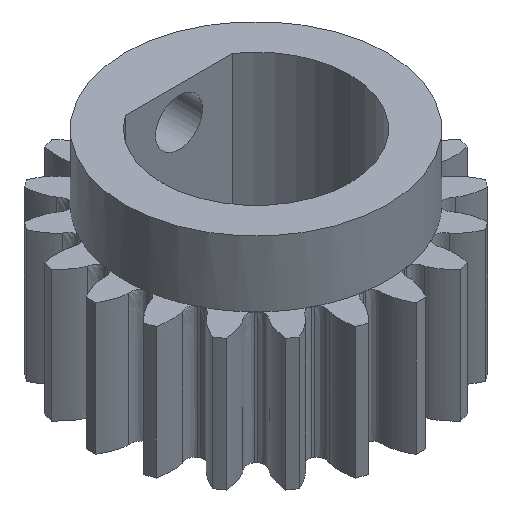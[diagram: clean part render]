
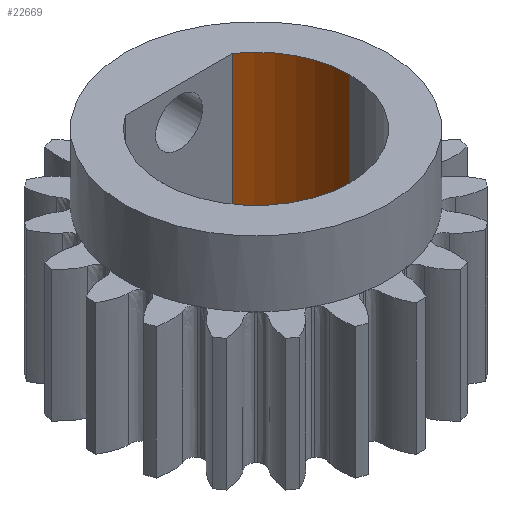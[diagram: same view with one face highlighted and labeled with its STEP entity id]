
A CAD part, isometric view. The second image highlights one B-rep face of the part: STEP entity #22669.
In plain terms, the highlighted cylindrical face has radius 4.999 mm (diameter 9.998 mm), a partial arc.
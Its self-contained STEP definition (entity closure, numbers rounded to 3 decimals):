
#82 = PLANE('',#83);
#83 = AXIS2_PLACEMENT_3D('',#84,#85,#86);
#84 = CARTESIAN_POINT('',(0.,0.,0.));
#85 = DIRECTION('',(0.,0.,1.));
#86 = DIRECTION('',(1.,0.,-0.));
#6521 = VERTEX_POINT('',#6522);
#6522 = CARTESIAN_POINT('',(2.863,4.1,0.));
#6535 = PLANE('',#6536);
#6536 = AXIS2_PLACEMENT_3D('',#6537,#6538,#6539);
#6537 = CARTESIAN_POINT('',(-2.863,4.1,-1.));
#6538 = DIRECTION('',(-0.,1.,0.));
#6539 = DIRECTION('',(1.,0.,-0.));
#6546 = EDGE_CURVE('',#6521,#6547,#6549,.T.);
#6547 = VERTEX_POINT('',#6548);
#6548 = CARTESIAN_POINT('',(5.,0.001,0.));
#6549 = SURFACE_CURVE('',#6550,(#6555,#6566),.PCURVE_S1.);
#6550 = CIRCLE('',#6551,4.999);
#6551 = AXIS2_PLACEMENT_3D('',#6552,#6553,#6554);
#6552 = CARTESIAN_POINT('',(0.001,0.001,0.));
#6553 = DIRECTION('',(0.,0.,-1.));
#6554 = DIRECTION('',(1.,0.,0.));
#6555 = PCURVE('',#82,#6556);
#6556 = DEFINITIONAL_REPRESENTATION('',(#6557),#6565);
#6557 = ( BOUNDED_CURVE() B_SPLINE_CURVE(2,(#6558,#6559,#6560,#6561,
#6562,#6563,#6564),.UNSPECIFIED.,.T.,.F.) B_SPLINE_CURVE_WITH_KNOTS((1,2
    ,2,2,2,1),(-2.094,0.,2.094,4.189,
6.283,8.378),.UNSPECIFIED.) CURVE() 
GEOMETRIC_REPRESENTATION_ITEM() RATIONAL_B_SPLINE_CURVE((1.,0.5,1.,0.5,
1.,0.5,1.)) REPRESENTATION_ITEM('') );
#6558 = CARTESIAN_POINT('',(5.,0.001));
#6559 = CARTESIAN_POINT('',(5.,-8.658));
#6560 = CARTESIAN_POINT('',(-2.499,-4.328));
#6561 = CARTESIAN_POINT('',(-9.997,0.001));
#6562 = CARTESIAN_POINT('',(-2.499,4.33));
#6563 = CARTESIAN_POINT('',(5.,8.66));
#6564 = CARTESIAN_POINT('',(5.,0.001));
#6565 = ( GEOMETRIC_REPRESENTATION_CONTEXT(2) 
PARAMETRIC_REPRESENTATION_CONTEXT() REPRESENTATION_CONTEXT('2D SPACE',''
  ) );
#6566 = PCURVE('',#6567,#6572);
#6567 = CYLINDRICAL_SURFACE('',#6568,4.999);
#6568 = AXIS2_PLACEMENT_3D('',#6569,#6570,#6571);
#6569 = CARTESIAN_POINT('',(0.001,0.001,-1.));
#6570 = DIRECTION('',(-0.,-0.,-1.));
#6571 = DIRECTION('',(1.,0.,0.));
#6572 = DEFINITIONAL_REPRESENTATION('',(#6573),#6577);
#6573 = LINE('',#6574,#6575);
#6574 = CARTESIAN_POINT('',(-6.283,-1.));
#6575 = VECTOR('',#6576,1.);
#6576 = DIRECTION('',(1.,-0.));
#6577 = ( GEOMETRIC_REPRESENTATION_CONTEXT(2) 
PARAMETRIC_REPRESENTATION_CONTEXT() REPRESENTATION_CONTEXT('2D SPACE',''
  ) );
#6594 = PLANE('',#6595);
#6595 = AXIS2_PLACEMENT_3D('',#6596,#6597,#6598);
#6596 = CARTESIAN_POINT('',(5.,-0.001,-1.));
#6597 = DIRECTION('',(-1.,0.,0.));
#6598 = DIRECTION('',(0.,1.,0.));
#6977 = PLANE('',#6978);
#6978 = AXIS2_PLACEMENT_3D('',#6979,#6980,#6981);
#6979 = CARTESIAN_POINT('',(0.,0.,10.5));
#6980 = DIRECTION('',(0.,0.,1.));
#6981 = DIRECTION('',(1.,0.,-0.));
#22629 = VERTEX_POINT('',#22630);
#22630 = CARTESIAN_POINT('',(5.,0.001,10.5));
#22649 = EDGE_CURVE('',#6547,#22629,#22650,.T.);
#22650 = SURFACE_CURVE('',#22651,(#22655,#22662),.PCURVE_S1.);
#22651 = LINE('',#22652,#22653);
#22652 = CARTESIAN_POINT('',(5.,0.001,-1.));
#22653 = VECTOR('',#22654,1.);
#22654 = DIRECTION('',(0.,0.,1.));
#22655 = PCURVE('',#6594,#22656);
#22656 = DEFINITIONAL_REPRESENTATION('',(#22657),#22661);
#22657 = LINE('',#22658,#22659);
#22658 = CARTESIAN_POINT('',(0.002,0.));
#22659 = VECTOR('',#22660,1.);
#22660 = DIRECTION('',(0.,-1.));
#22661 = ( GEOMETRIC_REPRESENTATION_CONTEXT(2) 
PARAMETRIC_REPRESENTATION_CONTEXT() REPRESENTATION_CONTEXT('2D SPACE',''
  ) );
#22662 = PCURVE('',#6567,#22663);
#22663 = DEFINITIONAL_REPRESENTATION('',(#22664),#22668);
#22664 = LINE('',#22665,#22666);
#22665 = CARTESIAN_POINT('',(-0.,0.));
#22666 = VECTOR('',#22667,1.);
#22667 = DIRECTION('',(-0.,-1.));
#22668 = ( GEOMETRIC_REPRESENTATION_CONTEXT(2) 
PARAMETRIC_REPRESENTATION_CONTEXT() REPRESENTATION_CONTEXT('2D SPACE',''
  ) );
#22669 = ADVANCED_FACE('',(#22670),#6567,.F.);
#22670 = FACE_BOUND('',#22671,.T.);
#22671 = EDGE_LOOP('',(#22672,#22673,#22674,#22702));
#22672 = ORIENTED_EDGE('',*,*,#6546,.T.);
#22673 = ORIENTED_EDGE('',*,*,#22649,.T.);
#22674 = ORIENTED_EDGE('',*,*,#22675,.F.);
#22675 = EDGE_CURVE('',#22676,#22629,#22678,.T.);
#22676 = VERTEX_POINT('',#22677);
#22677 = CARTESIAN_POINT('',(2.863,4.1,10.5));
#22678 = SURFACE_CURVE('',#22679,(#22684,#22691),.PCURVE_S1.);
#22679 = CIRCLE('',#22680,4.999);
#22680 = AXIS2_PLACEMENT_3D('',#22681,#22682,#22683);
#22681 = CARTESIAN_POINT('',(0.001,0.001,10.5));
#22682 = DIRECTION('',(0.,0.,-1.));
#22683 = DIRECTION('',(1.,0.,0.));
#22684 = PCURVE('',#6567,#22685);
#22685 = DEFINITIONAL_REPRESENTATION('',(#22686),#22690);
#22686 = LINE('',#22687,#22688);
#22687 = CARTESIAN_POINT('',(-6.283,-11.5));
#22688 = VECTOR('',#22689,1.);
#22689 = DIRECTION('',(1.,-0.));
#22690 = ( GEOMETRIC_REPRESENTATION_CONTEXT(2) 
PARAMETRIC_REPRESENTATION_CONTEXT() REPRESENTATION_CONTEXT('2D SPACE',''
  ) );
#22691 = PCURVE('',#6977,#22692);
#22692 = DEFINITIONAL_REPRESENTATION('',(#22693),#22701);
#22693 = ( BOUNDED_CURVE() B_SPLINE_CURVE(2,(#22694,#22695,#22696,#22697
    ,#22698,#22699,#22700),.UNSPECIFIED.,.T.,.F.) 
B_SPLINE_CURVE_WITH_KNOTS((1,2,2,2,2,1),(-2.094,0.,
    2.094,4.189,6.283,8.378),
.UNSPECIFIED.) CURVE() GEOMETRIC_REPRESENTATION_ITEM() 
RATIONAL_B_SPLINE_CURVE((1.,0.5,1.,0.5,1.,0.5,1.)) REPRESENTATION_ITEM(
  '') );
#22694 = CARTESIAN_POINT('',(5.,0.001));
#22695 = CARTESIAN_POINT('',(5.,-8.658));
#22696 = CARTESIAN_POINT('',(-2.499,-4.328));
#22697 = CARTESIAN_POINT('',(-9.997,0.001));
#22698 = CARTESIAN_POINT('',(-2.499,4.33));
#22699 = CARTESIAN_POINT('',(5.,8.66));
#22700 = CARTESIAN_POINT('',(5.,0.001));
#22701 = ( GEOMETRIC_REPRESENTATION_CONTEXT(2) 
PARAMETRIC_REPRESENTATION_CONTEXT() REPRESENTATION_CONTEXT('2D SPACE',''
  ) );
#22702 = ORIENTED_EDGE('',*,*,#22703,.F.);
#22703 = EDGE_CURVE('',#6521,#22676,#22704,.T.);
#22704 = SURFACE_CURVE('',#22705,(#22709,#22716),.PCURVE_S1.);
#22705 = LINE('',#22706,#22707);
#22706 = CARTESIAN_POINT('',(2.863,4.1,-1.));
#22707 = VECTOR('',#22708,1.);
#22708 = DIRECTION('',(0.,0.,1.));
#22709 = PCURVE('',#6567,#22710);
#22710 = DEFINITIONAL_REPRESENTATION('',(#22711),#22715);
#22711 = LINE('',#22712,#22713);
#22712 = CARTESIAN_POINT('',(-0.961,0.));
#22713 = VECTOR('',#22714,1.);
#22714 = DIRECTION('',(-0.,-1.));
#22715 = ( GEOMETRIC_REPRESENTATION_CONTEXT(2) 
PARAMETRIC_REPRESENTATION_CONTEXT() REPRESENTATION_CONTEXT('2D SPACE',''
  ) );
#22716 = PCURVE('',#6535,#22717);
#22717 = DEFINITIONAL_REPRESENTATION('',(#22718),#22722);
#22718 = LINE('',#22719,#22720);
#22719 = CARTESIAN_POINT('',(5.725,0.));
#22720 = VECTOR('',#22721,1.);
#22721 = DIRECTION('',(0.,-1.));
#22722 = ( GEOMETRIC_REPRESENTATION_CONTEXT(2) 
PARAMETRIC_REPRESENTATION_CONTEXT() REPRESENTATION_CONTEXT('2D SPACE',''
  ) );
